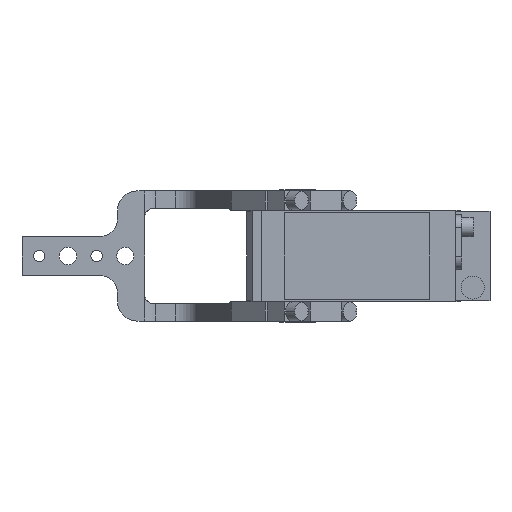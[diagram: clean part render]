
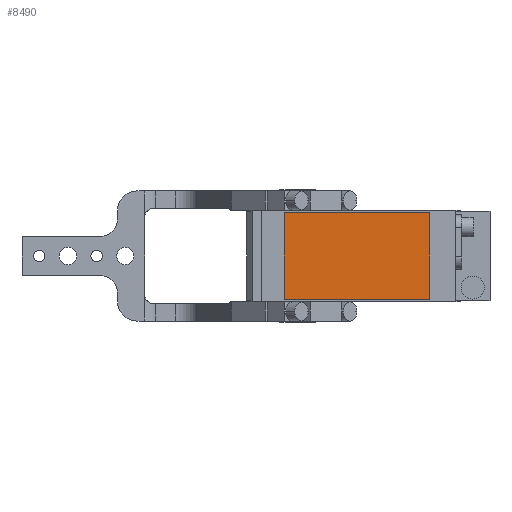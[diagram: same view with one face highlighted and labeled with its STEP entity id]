
A CAD part, front view. The second image highlights one B-rep face of the part: STEP entity #8490.
In plain terms, the highlighted planar face has unit normal (0, -1, 0).
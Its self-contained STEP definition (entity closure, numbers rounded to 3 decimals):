
#33 = DIRECTION ( 'NONE',  ( 1., 0., 0. ) ) ;
#144 = DIRECTION ( 'NONE',  ( 0., -1., 0. ) ) ;
#146 = LINE ( 'NONE', #10135, #9410 ) ;
#220 = DIRECTION ( 'NONE',  ( 0., 0., -1. ) ) ;
#517 = EDGE_CURVE ( 'NONE', #11899, #8753, #948, .T. ) ;
#948 = LINE ( 'NONE', #5488, #10823 ) ;
#1017 = ORIENTED_EDGE ( 'NONE', *, *, #1746, .T. ) ;
#1150 = DIRECTION ( 'NONE',  ( 0., 0., -1. ) ) ;
#1216 = PLANE ( 'NONE',  #6166 ) ;
#1389 = CARTESIAN_POINT ( 'NONE',  ( -7., -280.5, 22.5 ) ) ;
#1746 = EDGE_CURVE ( 'NONE', #6140, #11899, #146, .T. ) ;
#1879 = CARTESIAN_POINT ( 'NONE',  ( -7., -280.5, -22.5 ) ) ;
#2318 = DIRECTION ( 'NONE',  ( -1., 0., 0. ) ) ;
#2681 = LINE ( 'NONE', #13385, #4486 ) ;
#3246 = EDGE_CURVE ( 'NONE', #5303, #6140, #3502, .T. ) ;
#3332 = CARTESIAN_POINT ( 'NONE',  ( 0., -280.5, 0. ) ) ;
#3502 = LINE ( 'NONE', #6693, #9475 ) ;
#4486 = VECTOR ( 'NONE', #6982, 1000. ) ;
#5303 = VERTEX_POINT ( 'NONE', #9722 ) ;
#5488 = CARTESIAN_POINT ( 'NONE',  ( -7., -280.5, -22.5 ) ) ;
#5910 = EDGE_CURVE ( 'NONE', #8753, #5303, #2681, .T. ) ;
#6140 = VERTEX_POINT ( 'NONE', #1389 ) ;
#6166 = AXIS2_PLACEMENT_3D ( 'NONE', #3332, #144, #1150 ) ;
#6384 = FACE_OUTER_BOUND ( 'NONE', #13677, .T. ) ;
#6693 = CARTESIAN_POINT ( 'NONE',  ( -7., -280.5, 22.5 ) ) ;
#6935 = CARTESIAN_POINT ( 'NONE',  ( 69., -280.5, -22.5 ) ) ;
#6982 = DIRECTION ( 'NONE',  ( 0., 0., 1. ) ) ;
#8490 = ADVANCED_FACE ( 'NONE', ( #6384 ), #1216, .T. ) ;
#8753 = VERTEX_POINT ( 'NONE', #6935 ) ;
#8957 = ORIENTED_EDGE ( 'NONE', *, *, #517, .T. ) ;
#9410 = VECTOR ( 'NONE', #220, 1000. ) ;
#9475 = VECTOR ( 'NONE', #2318, 1000. ) ;
#9722 = CARTESIAN_POINT ( 'NONE',  ( 69., -280.5, 22.5 ) ) ;
#10135 = CARTESIAN_POINT ( 'NONE',  ( -7., -280.5, 22.5 ) ) ;
#10635 = ORIENTED_EDGE ( 'NONE', *, *, #5910, .T. ) ;
#10823 = VECTOR ( 'NONE', #33, 1000. ) ;
#11073 = ORIENTED_EDGE ( 'NONE', *, *, #3246, .T. ) ;
#11899 = VERTEX_POINT ( 'NONE', #1879 ) ;
#13385 = CARTESIAN_POINT ( 'NONE',  ( 69., -280.5, 22.5 ) ) ;
#13677 = EDGE_LOOP ( 'NONE', ( #1017, #8957, #10635, #11073 ) ) ;
